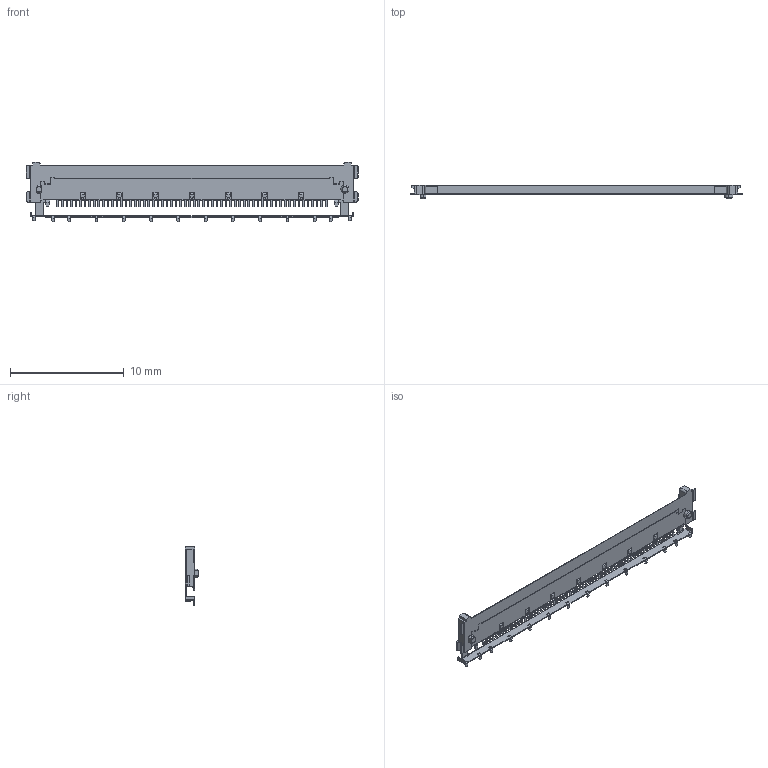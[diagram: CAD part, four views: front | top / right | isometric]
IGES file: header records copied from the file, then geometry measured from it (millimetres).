
Start section: SolidWorks IGES file using analytic representation for surfaces
Global section: file name: \\ogr15dr003\3dworks\‘C‰i\CAII PLUS 60P STEP 161111\PLUG RECE\60P PLUS RECE IGES with Boss.IGS; native system: SolidWorks 2014; preprocessor: SolidWorks 2014; author: ieng2-007; date: 170926.144319; units: millimetre
Bounding box: 29.2 x 1.2 x 5.23 mm (x, y, z)
Surface area: 336.2 mm2 (no closed solid volume)
Topology: 0 solids, 0 shells, 1739 faces, 11565 edges, 11565 vertices
Faces by surface type: bspline 1244, revolution 495
